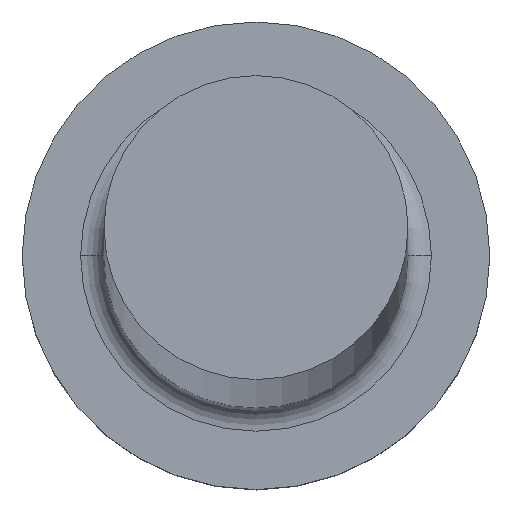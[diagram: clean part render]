
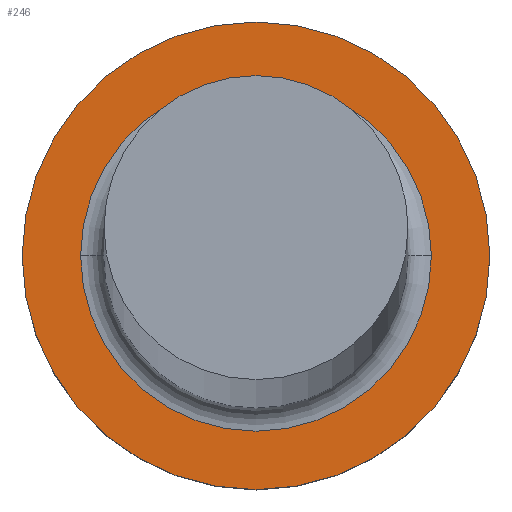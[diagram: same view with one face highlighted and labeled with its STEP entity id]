
A CAD part, top view. The second image highlights one B-rep face of the part: STEP entity #246.
In plain terms, the highlighted planar face has unit normal (0, 0, 1).
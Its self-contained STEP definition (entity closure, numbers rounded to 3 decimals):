
#2 = CARTESIAN_POINT ( 'NONE',  ( 3.75, 0., 4. ) ) ;
#3 = DIRECTION ( 'NONE',  ( -1., 0., 0. ) ) ;
#6 = EDGE_CURVE ( 'NONE', #198, #131, #176, .T. ) ;
#13 = AXIS2_PLACEMENT_3D ( 'NONE', #162, #113, #247 ) ;
#14 = EDGE_CURVE ( 'NONE', #131, #198, #223, .T. ) ;
#24 = ORIENTED_EDGE ( 'NONE', *, *, #14, .T. ) ;
#25 = ORIENTED_EDGE ( 'NONE', *, *, #6, .T. ) ;
#37 = VERTEX_POINT ( 'NONE', #250 ) ;
#50 = EDGE_LOOP ( 'NONE', ( #108, #79 ) ) ;
#51 = CARTESIAN_POINT ( 'NONE',  ( -3.75, 0., 4. ) ) ;
#53 = AXIS2_PLACEMENT_3D ( 'NONE', #70, #119, #266 ) ;
#67 = EDGE_CURVE ( 'NONE', #37, #173, #217, .T. ) ;
#70 = CARTESIAN_POINT ( 'NONE',  ( 0., 0., 4. ) ) ;
#73 = FACE_BOUND ( 'NONE', #87, .T. ) ;
#79 = ORIENTED_EDGE ( 'NONE', *, *, #67, .F. ) ;
#80 = AXIS2_PLACEMENT_3D ( 'NONE', #211, #81, #3 ) ;
#81 = DIRECTION ( 'NONE',  ( 0., 0., -1. ) ) ;
#86 = DIRECTION ( 'NONE',  ( 0., 0., -1. ) ) ;
#87 = EDGE_LOOP ( 'NONE', ( #25, #24 ) ) ;
#91 = DIRECTION ( 'NONE',  ( 0., 0., -1. ) ) ;
#100 = AXIS2_PLACEMENT_3D ( 'NONE', #264, #91, #121 ) ;
#108 = ORIENTED_EDGE ( 'NONE', *, *, #226, .F. ) ;
#113 = DIRECTION ( 'NONE',  ( 0., 0., -1. ) ) ;
#119 = DIRECTION ( 'NONE',  ( 0., 0., -1. ) ) ;
#121 = DIRECTION ( 'NONE',  ( -1., 0., 0. ) ) ;
#131 = VERTEX_POINT ( 'NONE', #2 ) ;
#149 = CIRCLE ( 'NONE', #53, 5. ) ;
#162 = CARTESIAN_POINT ( 'NONE',  ( 0., 0., 4. ) ) ;
#173 = VERTEX_POINT ( 'NONE', #236 ) ;
#176 = CIRCLE ( 'NONE', #13, 3.75 ) ;
#198 = VERTEX_POINT ( 'NONE', #51 ) ;
#210 = AXIS2_PLACEMENT_3D ( 'NONE', #212, #86, #235 ) ;
#211 = CARTESIAN_POINT ( 'NONE',  ( 0., 0., 4. ) ) ;
#212 = CARTESIAN_POINT ( 'NONE',  ( 0., 0., 4. ) ) ;
#217 = CIRCLE ( 'NONE', #210, 5. ) ;
#218 = PLANE ( 'NONE',  #100 ) ;
#223 = CIRCLE ( 'NONE', #80, 3.75 ) ;
#226 = EDGE_CURVE ( 'NONE', #173, #37, #149, .T. ) ;
#235 = DIRECTION ( 'NONE',  ( -1., 0., 0. ) ) ;
#236 = CARTESIAN_POINT ( 'NONE',  ( -5., 0., 4. ) ) ;
#246 = ADVANCED_FACE ( 'NONE', ( #73, #253 ), #218, .F. ) ;
#247 = DIRECTION ( 'NONE',  ( -1., 0., 0. ) ) ;
#250 = CARTESIAN_POINT ( 'NONE',  ( 5., 0., 4. ) ) ;
#253 = FACE_OUTER_BOUND ( 'NONE', #50, .T. ) ;
#264 = CARTESIAN_POINT ( 'NONE',  ( 5., 0., 4. ) ) ;
#266 = DIRECTION ( 'NONE',  ( -1., 0., 0. ) ) ;
